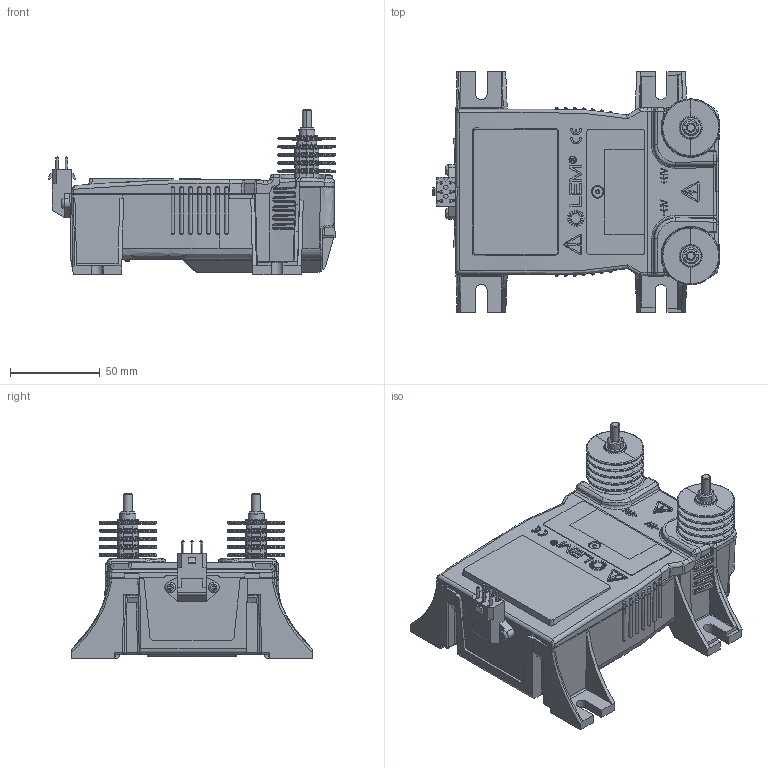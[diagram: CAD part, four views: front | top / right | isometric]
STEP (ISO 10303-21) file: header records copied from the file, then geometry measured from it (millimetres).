
FILE_DESCRIPTION(('CoCreate Modeling STEP Export'),'2;1');
FILE_NAME('TEMPO.stp','2012-02-06T10:57:12',(''),(''),'CoCreate Modeling STEP processor for AP214 (Solid Model)','CoCreate Modeling 17.0B 09-Oct-2010 (C) Parametric Technology GmbH','');
FILE_SCHEMA(('AUTOMOTIVE_DESIGN { 1 0 10303 214 1 1 1 1 }'));
Products named in the file (2): BLACKBOX_DV_4000_SP2
Assembly tree (1 placements, depth 2):
  BLACKBOX_DV_4000_SP2
    BLACKBOX_DV_4000_SP2
Bounding box: 159.64 x 134 x 92 mm (x, y, z)
Volume: 659440.6 mm3; surface area: 86774 mm2
Topology: 1 solids, 3 shells, 2704 faces, 7211 edges, 4589 vertices
Faces by surface type: plane 1629, bspline 542, cylinder 334, extrusion 93, torus 54, cone 28, sphere 24
Entity records: 161277 total; most frequent: CARTESIAN_POINT 100064, ORIENTED_EDGE 14362, DIRECTION 10057, EDGE_CURVE 7181, VERTEX_POINT 4589, VECTOR 4335, LINE 4232, AXIS2_PLACEMENT_3D 2861
